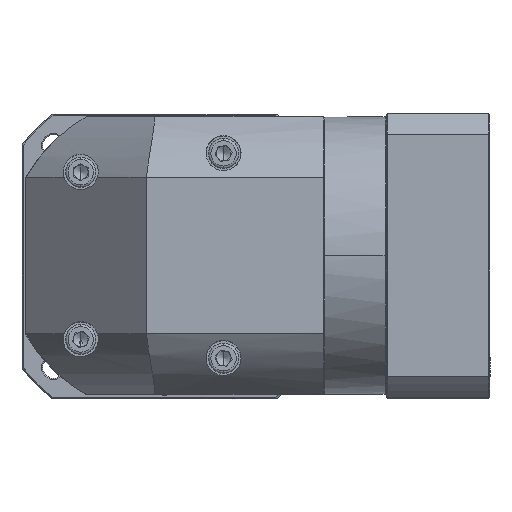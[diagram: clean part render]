
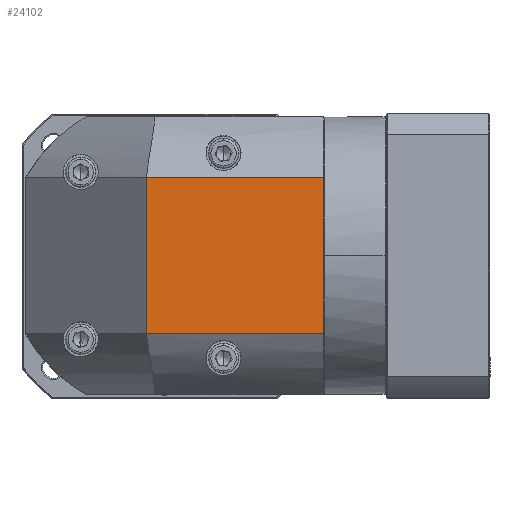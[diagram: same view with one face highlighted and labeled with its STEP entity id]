
A CAD part, top view. The second image highlights one B-rep face of the part: STEP entity #24102.
In plain terms, the highlighted planar face has unit normal (0, 0, 1).
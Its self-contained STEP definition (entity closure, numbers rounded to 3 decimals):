
#7217 = DIRECTION ( 'NONE',  ( 1., 0., 0. ) ) ;
#9146 = VECTOR ( 'NONE', #124014, 1000. ) ;
#9817 = EDGE_LOOP ( 'NONE', ( #92959, #12065, #25754, #51581 ) ) ;
#10863 = CARTESIAN_POINT ( 'NONE',  ( 111.233, 126.319, 67.055 ) ) ;
#12065 = ORIENTED_EDGE ( 'NONE', *, *, #17245, .F. ) ;
#13241 = LINE ( 'NONE', #119382, #52044 ) ;
#13641 = LINE ( 'NONE', #31104, #50861 ) ;
#17245 = EDGE_CURVE ( 'NONE', #21168, #83256, #13241, .T. ) ;
#21168 = VERTEX_POINT ( 'NONE', #113166 ) ;
#21175 = CARTESIAN_POINT ( 'NONE',  ( 45.333, 68.819, 67.055 ) ) ;
#24102 = ADVANCED_FACE ( 'NONE', ( #99531 ), #94132, .F. ) ;
#25754 = ORIENTED_EDGE ( 'NONE', *, *, #66244, .F. ) ;
#31104 = CARTESIAN_POINT ( 'NONE',  ( -12.167, 36.419, 67.055 ) ) ;
#32507 = EDGE_CURVE ( 'NONE', #48516, #51299, #36620, .T. ) ;
#36620 = LINE ( 'NONE', #10863, #9146 ) ;
#39229 = CARTESIAN_POINT ( 'NONE',  ( -12.167, 101.219, 67.055 ) ) ;
#44416 = VECTOR ( 'NONE', #7217, 1000. ) ;
#48516 = VERTEX_POINT ( 'NONE', #73738 ) ;
#50861 = VECTOR ( 'NONE', #52773, 1000. ) ;
#51299 = VERTEX_POINT ( 'NONE', #102041 ) ;
#51581 = ORIENTED_EDGE ( 'NONE', *, *, #32507, .F. ) ;
#52044 = VECTOR ( 'NONE', #132394, 1000. ) ;
#52773 = DIRECTION ( 'NONE',  ( -1., 0., 0. ) ) ;
#54362 = AXIS2_PLACEMENT_3D ( 'NONE', #21175, #104502, #74098 ) ;
#66244 = EDGE_CURVE ( 'NONE', #51299, #21168, #13641, .T. ) ;
#73738 = CARTESIAN_POINT ( 'NONE',  ( 111.233, 101.219, 67.055 ) ) ;
#74098 = DIRECTION ( 'NONE',  ( 0., -1., 0. ) ) ;
#83256 = VERTEX_POINT ( 'NONE', #110230 ) ;
#92959 = ORIENTED_EDGE ( 'NONE', *, *, #99821, .F. ) ;
#94132 = PLANE ( 'NONE',  #54362 ) ;
#99531 = FACE_OUTER_BOUND ( 'NONE', #9817, .T. ) ;
#99821 = EDGE_CURVE ( 'NONE', #83256, #48516, #102790, .T. ) ;
#102041 = CARTESIAN_POINT ( 'NONE',  ( 111.233, 36.419, 67.055 ) ) ;
#102790 = LINE ( 'NONE', #39229, #44416 ) ;
#104502 = DIRECTION ( 'NONE',  ( 0., 0., -1. ) ) ;
#110230 = CARTESIAN_POINT ( 'NONE',  ( 37.833, 101.219, 67.055 ) ) ;
#113166 = CARTESIAN_POINT ( 'NONE',  ( 37.833, 36.419, 67.055 ) ) ;
#119382 = CARTESIAN_POINT ( 'NONE',  ( 37.833, 126.319, 67.055 ) ) ;
#124014 = DIRECTION ( 'NONE',  ( 0., -1., 0. ) ) ;
#132394 = DIRECTION ( 'NONE',  ( 0., 1., 0. ) ) ;
